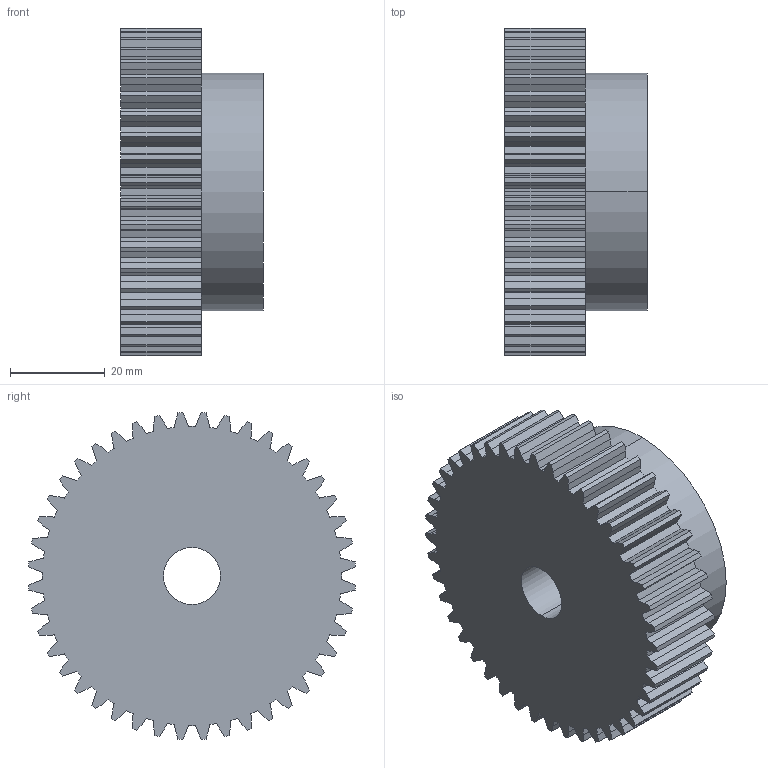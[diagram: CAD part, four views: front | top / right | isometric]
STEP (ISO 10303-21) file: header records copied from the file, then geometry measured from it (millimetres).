
FILE_DESCRIPTION (( 'STEP AP203' ), '1' );
FILE_NAME ('PM 27044.STEP', '2013-09-24T10:22:38', ( '' ), ( '' ), 'SwSTEP 2.0', 'SolidWorks 2010', '' );
FILE_SCHEMA (( 'CONFIG_CONTROL_DESIGN' ));
Length unit declared in the file: millimetre
Products named in the file (1): PM 27044
Bounding box: 30 x 68.89 x 68.89 mm (x, y, z)
Volume: 79760.3 mm3; surface area: 16375.7 mm2
Topology: 1 solids, 1 shells, 272 faces, 807 edges, 538 vertices
Faces by surface type: plane 179, cylinder 93
Entity records: 9180 total; most frequent: CARTESIAN_POINT 1624, ORIENTED_EDGE 1614, DIRECTION 1537, EDGE_CURVE 807, VECTOR 619, LINE 619, VERTEX_POINT 538, AXIS2_PLACEMENT_3D 459
